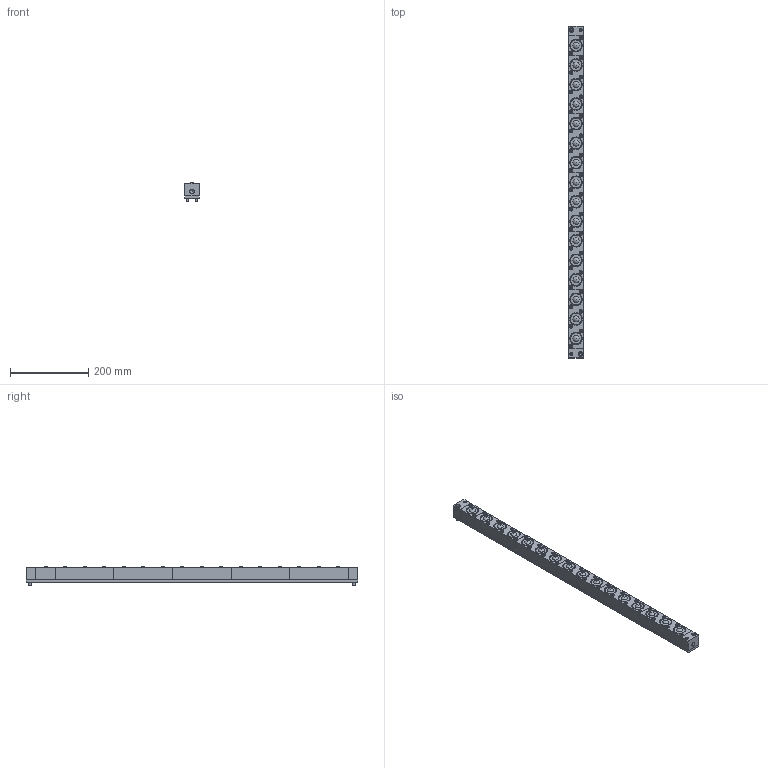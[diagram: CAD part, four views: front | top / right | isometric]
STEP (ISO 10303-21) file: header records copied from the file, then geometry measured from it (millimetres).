
FILE_DESCRIPTION(/* description */ (''),/* implementation_level */ '2;1');
FILE_NAME(/* name */ 'Z:\34-Tei\01-web 3Dデータ\07-ISR-C38型\ISR-C38-850-A.stp',/* time_stamp */ '2015-01-15T15:15:24+09:00',/* author */ ('yamaki'),/* organization */ (''),/* preprocessor_version */ 'ST-DEVELOPER v15.6',/* originating_system */ 'Autodesk Inventor 2015',/* authorisation */ '');
FILE_SCHEMA (('AUTOMOTIVE_DESIGN { 1 0 10303 214 3 1 1 }'));
Length unit declared in the file: millimetre
Products named in the file (6): 4100AT-01-850; 4501SL-01; 4500AT-00; JIS B 1176 - M6 x 35; 4501SL-03; ISR-C38
Bounding box: 38 x 850 x 48 mm (x, y, z)
Volume: 1131446.3 mm3; surface area: 345197 mm2
Topology: 25 solids, 25 shells, 744 faces, 1563 edges, 1006 vertices
Faces by surface type: plane 477, cylinder 141, cone 56, torus 54, sphere 16
Full cylindrical faces by diameter (mm): 6 x2, 7 x2, 7.5 x2, 8 x2, 8.5 x32, 9.5 x32, 10 x2, 10.5 x1, 11.5 x2, 31.5 x16, 32 x16, 35 x32
Entity records: 5557 total; most frequent: CARTESIAN_POINT 1027, DIRECTION 886, ORIENTED_EDGE 754, EDGE_CURVE 377, AXIS2_PLACEMENT_3D 334, EDGE_LOOP 314, VERTEX_POINT 277, LINE 218
